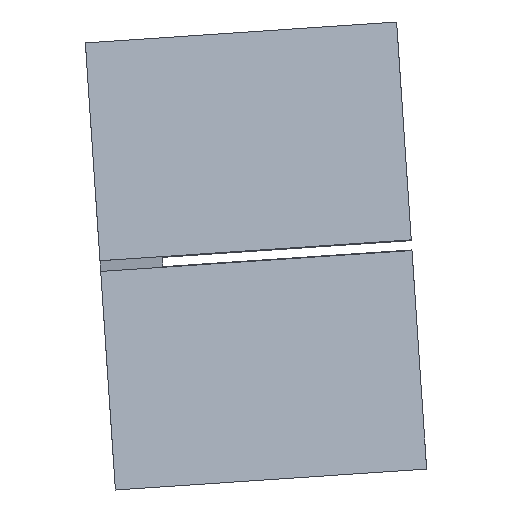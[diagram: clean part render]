
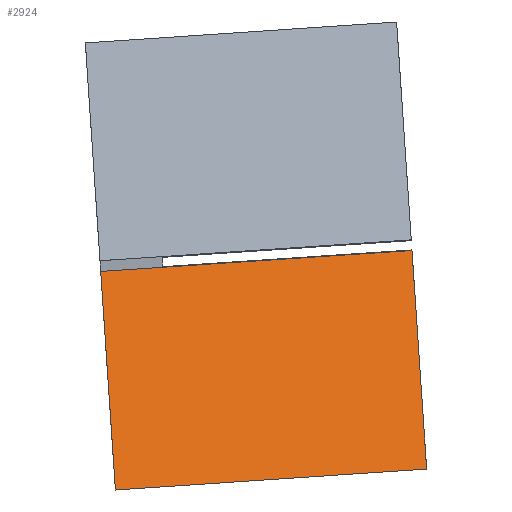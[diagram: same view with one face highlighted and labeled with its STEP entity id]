
A CAD part, front view. The second image highlights one B-rep face of the part: STEP entity #2924.
In plain terms, the highlighted planar face has unit normal (-0.022, -0.943, 0.333).
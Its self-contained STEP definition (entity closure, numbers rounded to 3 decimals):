
#28 = DIRECTION ( 'NONE',  ( 0.063, -0.334, -0.94 ) ) ;
#38 = DIRECTION ( 'NONE',  ( 0.022, 0.943, -0.333 ) ) ;
#42 = CARTESIAN_POINT ( 'NONE',  ( 332.055, -69.339, 1183.93 ) ) ;
#93 = PLANE ( 'NONE',  #994 ) ;
#152 = VECTOR ( 'NONE', #1560, 1000. ) ;
#157 = VECTOR ( 'NONE', #2187, 1000. ) ;
#163 = DIRECTION ( 'NONE',  ( 0.998, 0., 0.067 ) ) ;
#186 = CARTESIAN_POINT ( 'NONE',  ( 332.055, -69.339, 1183.93 ) ) ;
#231 = VECTOR ( 'NONE', #3269, 1000. ) ;
#685 = CARTESIAN_POINT ( 'NONE',  ( 322.189, -59.381, 1211.414 ) ) ;
#776 = VERTEX_POINT ( 'NONE', #2894 ) ;
#936 = EDGE_CURVE ( 'NONE', #2706, #3349, #2157, .T. ) ;
#994 = AXIS2_PLACEMENT_3D ( 'NONE', #42, #38, #28 ) ;
#1080 = EDGE_LOOP ( 'NONE', ( #2181, #2233, #1569, #2536 ) ) ;
#1465 = EDGE_CURVE ( 'NONE', #3349, #3137, #3240, .T. ) ;
#1515 = EDGE_CURVE ( 'NONE', #776, #3137, #1619, .T. ) ;
#1559 = CARTESIAN_POINT ( 'NONE',  ( 330.171, -59.381, 1211.951 ) ) ;
#1560 = DIRECTION ( 'NONE',  ( 0.998, 0., 0.067 ) ) ;
#1569 = ORIENTED_EDGE ( 'NONE', *, *, #2344, .F. ) ;
#1617 = FACE_OUTER_BOUND ( 'NONE', #1080, .T. ) ;
#1619 = LINE ( 'NONE', #3279, #231 ) ;
#2006 = CARTESIAN_POINT ( 'NONE',  ( 324.073, -69.339, 1183.393 ) ) ;
#2157 = LINE ( 'NONE', #2208, #157 ) ;
#2181 = ORIENTED_EDGE ( 'NONE', *, *, #1465, .T. ) ;
#2187 = DIRECTION ( 'NONE',  ( 0.063, -0.334, -0.94 ) ) ;
#2208 = CARTESIAN_POINT ( 'NONE',  ( 322.189, -59.381, 1211.414 ) ) ;
#2233 = ORIENTED_EDGE ( 'NONE', *, *, #1515, .F. ) ;
#2344 = EDGE_CURVE ( 'NONE', #2706, #776, #2830, .T. ) ;
#2459 = VECTOR ( 'NONE', #163, 1000. ) ;
#2536 = ORIENTED_EDGE ( 'NONE', *, *, #936, .T. ) ;
#2706 = VERTEX_POINT ( 'NONE', #685 ) ;
#2830 = LINE ( 'NONE', #1559, #152 ) ;
#2894 = CARTESIAN_POINT ( 'NONE',  ( 362.099, -59.381, 1214.097 ) ) ;
#2897 = CARTESIAN_POINT ( 'NONE',  ( 363.983, -69.339, 1186.076 ) ) ;
#2924 = ADVANCED_FACE ( 'NONE', ( #1617 ), #93, .F. ) ;
#3137 = VERTEX_POINT ( 'NONE', #2897 ) ;
#3240 = LINE ( 'NONE', #186, #2459 ) ;
#3269 = DIRECTION ( 'NONE',  ( 0.063, -0.334, -0.94 ) ) ;
#3279 = CARTESIAN_POINT ( 'NONE',  ( 363.983, -69.339, 1186.076 ) ) ;
#3349 = VERTEX_POINT ( 'NONE', #2006 ) ;
